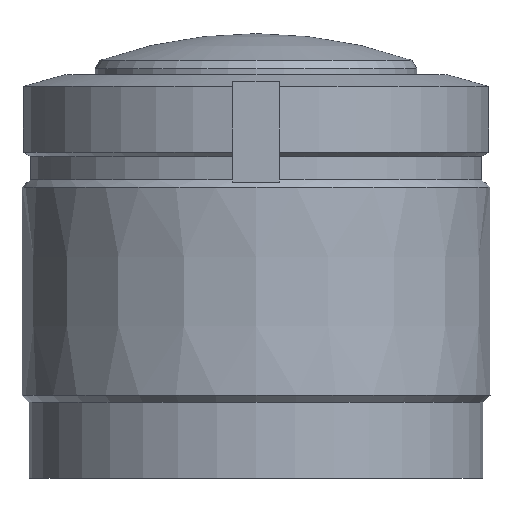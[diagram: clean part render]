
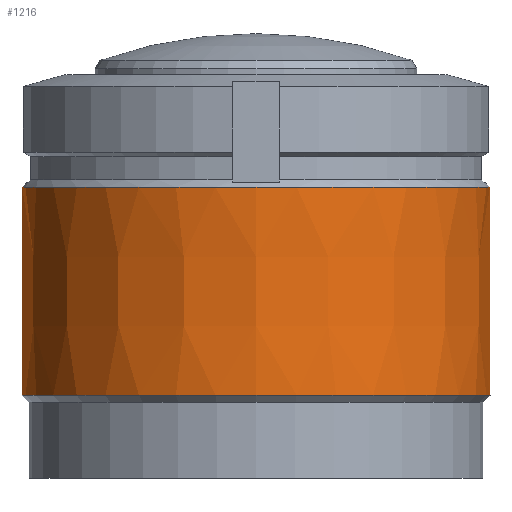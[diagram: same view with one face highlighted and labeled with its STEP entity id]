
A CAD part, front view. The second image highlights one B-rep face of the part: STEP entity #1216.
In plain terms, the highlighted conical face has half-angle 0 degrees and reference radius 40 mm.
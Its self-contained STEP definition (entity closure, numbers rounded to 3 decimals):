
#1153=CARTESIAN_POINT('',(-40.,0.0,-54.8));
#1154=VERTEX_POINT('',#1153);
#1162=CARTESIAN_POINT('',(40.,0.0,-54.8));
#1163=VERTEX_POINT('',#1162);
#1170=CARTESIAN_POINT('',(-0.0,0.0,-54.8));
#1171=DIRECTION('',(0.0,0.0,1.0));
#1172=DIRECTION('',(1.0,0.0,0.0));
#1173=AXIS2_PLACEMENT_3D('',#1170,#1171,#1172);
#1174=CIRCLE('',#1173,40.);
#1175=EDGE_CURVE('no 2171',#1154,#1163,#1174,.T.);
#1185=CARTESIAN_POINT('',(40.,0.0,-19.25));
#1186=VERTEX_POINT('',#1185);
#1187=CARTESIAN_POINT('',(40.,0.0,-19.25));
#1188=DIRECTION('',(0.,0.0,-1.0));
#1189=VECTOR('',#1188,1.0);
#1190=LINE('',#1187,#1189);
#1191=EDGE_CURVE('no 2181',#1186,#1163,#1190,.T.);
#1192=ORIENTED_EDGE('',*,*,#1191,.F.);
#1193=CARTESIAN_POINT('',(-40.,0.0,-19.25));
#1194=VERTEX_POINT('',#1193);
#1195=CARTESIAN_POINT('',(-0.0,0.0,-19.25));
#1196=DIRECTION('',(0.0,0.0,1.0));
#1197=DIRECTION('',(1.0,0.0,0.0));
#1198=AXIS2_PLACEMENT_3D('',#1195,#1196,#1197);
#1199=CIRCLE('',#1198,40.);
#1200=EDGE_CURVE('no 2187',#1194,#1186,#1199,.T.);
#1201=ORIENTED_EDGE('',*,*,#1200,.F.);
#1202=CARTESIAN_POINT('',(-40.,0.0,-19.25));
#1203=DIRECTION('',(0.,0.0,-1.0));
#1204=VECTOR('',#1203,1.0);
#1205=LINE('',#1202,#1204);
#1206=EDGE_CURVE('no 2191',#1194,#1154,#1205,.T.);
#1207=ORIENTED_EDGE('',*,*,#1206,.T.);
#1208=ORIENTED_EDGE('',*,*,#1175,.T.);
#1209=EDGE_LOOP('',(#1192,#1201,#1207,#1208));
#1210=FACE_OUTER_BOUND('',#1209,.T.);
#1211=CARTESIAN_POINT('',(-0.0,0.0,-54.8));
#1212=DIRECTION('',(0.0,0.0,-1.0));
#1213=DIRECTION('',(-0.0,1.0,0.0));
#1214=AXIS2_PLACEMENT_3D('',#1211,#1212,#1213);
#1215=CONICAL_SURFACE('',#1214,40.,0.);
#1216=ADVANCED_FACE('no 2174',(#1210),#1215,.T.);
